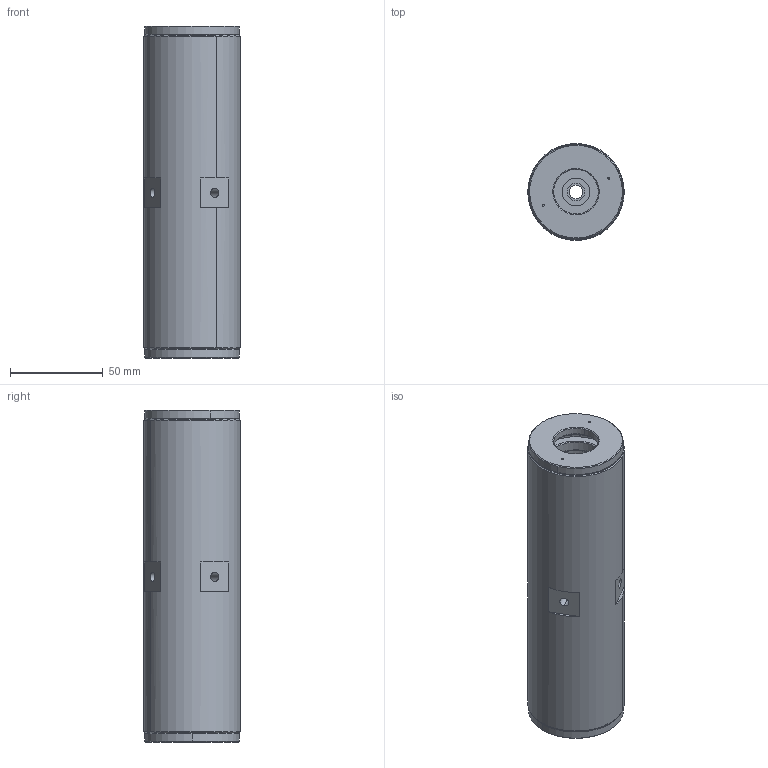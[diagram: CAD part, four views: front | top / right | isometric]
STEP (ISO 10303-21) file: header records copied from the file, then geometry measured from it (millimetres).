
FILE_DESCRIPTION (( 'STEP AP203' ), '1' );
FILE_NAME ('UDOB Module 001.STEP', '2015-12-05T19:53:15', ( '' ), ( '' ), 'SwSTEP 2.0', 'SolidWorks 2014', '' );
FILE_SCHEMA (( 'CONFIG_CONTROL_DESIGN' ));
Length unit declared in the file: millimetre
Products named in the file (6): UDOB Module 001; aperture; HOUSING 001; bevel washer 23; Secure Nut 001; Ad2SM 001
Assembly tree (7 placements, depth 2):
  UDOB Module 001
    aperture
    HOUSING 001
    bevel washer 23
    Secure Nut 001  x2
    Ad2SM 001  x2
Bounding box: 52 x 52 x 179 mm (x, y, z)
Volume: 241911 mm3; surface area: 67309.8 mm2
Topology: 7 solids, 7 shells, 207 faces, 478 edges, 298 vertices
Faces by surface type: cylinder 76, cone 66, plane 65
Entity records: 5408 total; most frequent: CARTESIAN_POINT 1034, DIRECTION 844, ORIENTED_EDGE 724, EDGE_CURVE 362, AXIS2_PLACEMENT_3D 348, VERTEX_POINT 226, EDGE_LOOP 184, CIRCLE 182
